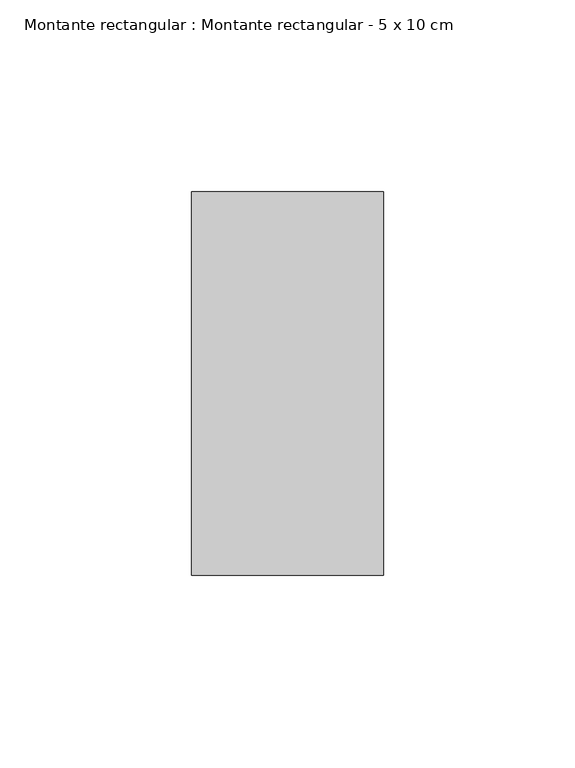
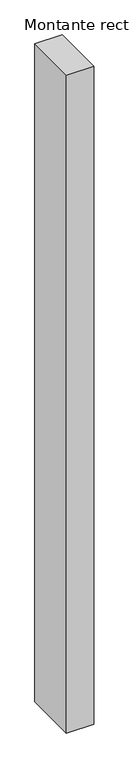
"""IFC4 building model written with IfcOpenShell, lengths in millimetres: member geometry, Montante rectangular : Montante rectangular - 5 x 10 cm."""

from ifc_helpers import new_model, si_unit, frame, origin, place, context, project, spatial, polyline, outline, extrude, source, transform, mapped, element, save


def montante_rectangular_montante_rectangular_5_x_10_cm_e94830d5(model_context):
    return source(origin(), model_context, "Body", "SweptSolid", [
        extrude(outline(polyline([(0.0, 50.0), (0.0, -50.0), (-50.0, -50.0), (-50.0, 50.0), (0.0, 50.0)])), frame((0.0, 0.0, -1275.0610844), z_axis=(0.0, 0.0, 1.0), x_axis=(1.0, 0.0, 0.0)), (0.0, 0.0, 1.0), 1275.0610844),
    ])


if __name__ == "__main__":
    model = new_model("IFC4")
    model_context = context("Model", 3, world=origin())
    ifc_project = project(units=[si_unit("LENGTHUNIT", "METRE", prefix="MILLI")], contexts=[model_context])
    site = spatial("IfcSite", under=ifc_project)
    building = spatial("IfcBuilding", under=site)
    placement = place(None, origin())
    montante_rectangular_montante_rectangular_5_x_10_cm_shape = montante_rectangular_montante_rectangular_5_x_10_cm_e94830d5(model_context)
    element("IfcMember", 1, ObjectType="Montante rectangular : Montante rectangular - 5 x 10 cm", at=placement, inside=building, context=model_context, shape_type="MappedRepresentation", body=[
        mapped(montante_rectangular_montante_rectangular_5_x_10_cm_shape, transform((0.0, 0.0, 0.0), x_axis=(1.0, 0.0, 0.0), y_axis=(0.0, 1.0, 0.0), z_axis=(0.0, 0.0, 1.0))),
    ])
    save(model, "model.ifc")
